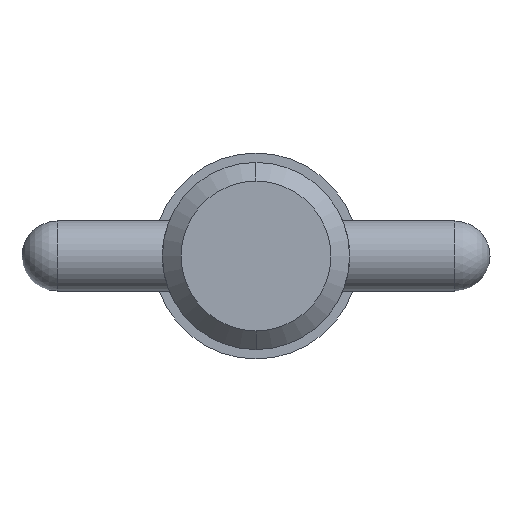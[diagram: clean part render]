
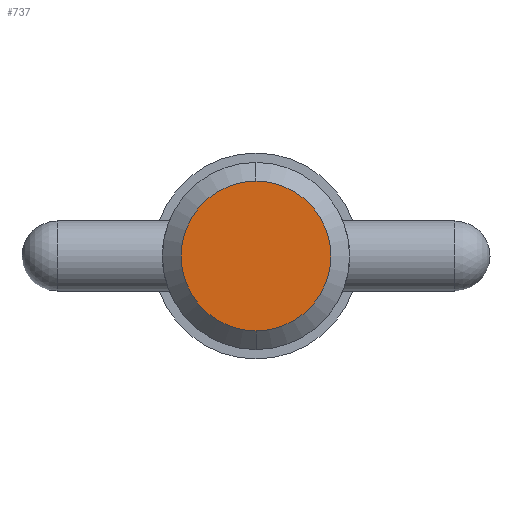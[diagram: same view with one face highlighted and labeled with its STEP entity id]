
A CAD part, left-side view. The second image highlights one B-rep face of the part: STEP entity #737.
In plain terms, the highlighted planar face has unit normal (-1, 0, 0).
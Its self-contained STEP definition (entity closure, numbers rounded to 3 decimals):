
#20 = AXIS2_PLACEMENT_3D ( 'NONE', #505, #85, #1009 ) ;
#50 = VERTEX_POINT ( 'NONE', #955 ) ;
#61 = CARTESIAN_POINT ( 'NONE',  ( 0., 0., 5.08 ) ) ;
#85 = DIRECTION ( 'NONE',  ( -1., 0., 0. ) ) ;
#101 = EDGE_LOOP ( 'NONE', ( #458, #945 ) ) ;
#109 = DIRECTION ( 'NONE',  ( 0., 0., -1. ) ) ;
#139 = DIRECTION ( 'NONE',  ( 0., 0., -1. ) ) ;
#171 = PLANE ( 'NONE',  #20 ) ;
#198 = VERTEX_POINT ( 'NONE', #61 ) ;
#287 = CARTESIAN_POINT ( 'NONE',  ( 0., 0., 0. ) ) ;
#361 = AXIS2_PLACEMENT_3D ( 'NONE', #516, #845, #109 ) ;
#458 = ORIENTED_EDGE ( 'NONE', *, *, #488, .F. ) ;
#488 = EDGE_CURVE ( 'NONE', #50, #198, #823, .T. ) ;
#497 = AXIS2_PLACEMENT_3D ( 'NONE', #287, #691, #139 ) ;
#505 = CARTESIAN_POINT ( 'NONE',  ( 0., 0., 0. ) ) ;
#516 = CARTESIAN_POINT ( 'NONE',  ( 0., 0., 0. ) ) ;
#589 = FACE_OUTER_BOUND ( 'NONE', #101, .T. ) ;
#691 = DIRECTION ( 'NONE',  ( 1., 0., 0. ) ) ;
#737 = ADVANCED_FACE ( 'NONE', ( #589 ), #171, .T. ) ;
#823 = CIRCLE ( 'NONE', #497, 5.08 ) ;
#845 = DIRECTION ( 'NONE',  ( 1., 0., 0. ) ) ;
#902 = EDGE_CURVE ( 'NONE', #198, #50, #982, .T. ) ;
#945 = ORIENTED_EDGE ( 'NONE', *, *, #902, .F. ) ;
#955 = CARTESIAN_POINT ( 'NONE',  ( 0., 0., -5.08 ) ) ;
#982 = CIRCLE ( 'NONE', #361, 5.08 ) ;
#1009 = DIRECTION ( 'NONE',  ( 0., 0., 1. ) ) ;
